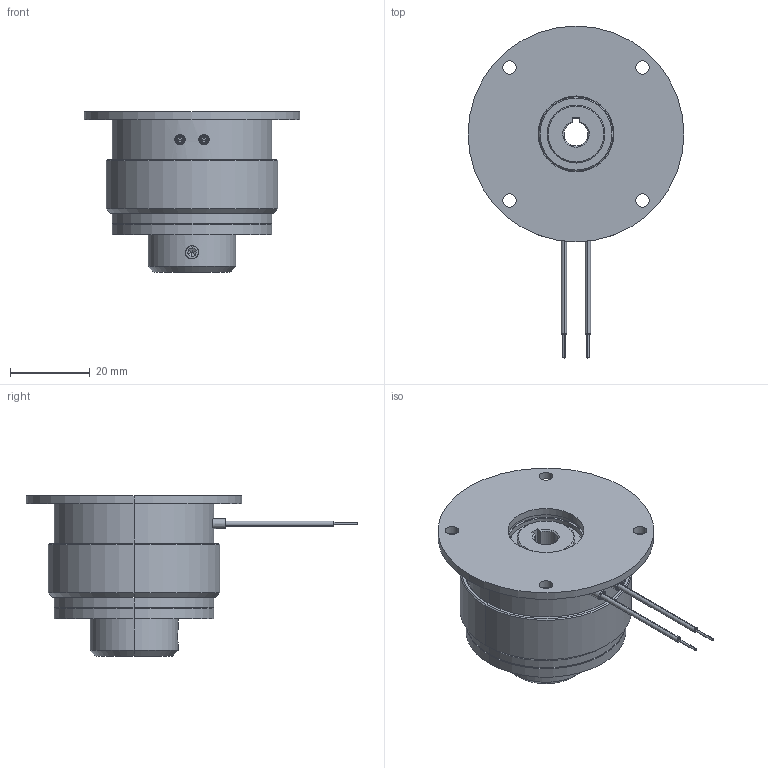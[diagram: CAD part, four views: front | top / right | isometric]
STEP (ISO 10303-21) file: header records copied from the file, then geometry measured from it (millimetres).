
FILE_DESCRIPTION (( 'STEP AP214' ), '1' );
FILE_NAME ('dr_bk_0303-130_mu.STEP', '2021-11-17T08:30:06', ( '' ), ( '' ), 'SwSTEP 2.0', 'SolidWorks 2019', '' );
FILE_SCHEMA (( 'AUTOMOTIVE_DESIGN' ));
Length unit declared in the file: millimetre
Products named in the file (12): 10068742_000; 10069108_000; 10068743_000_genietet 2,03mm Klemml„nge; 10068745_000_eingebaut; 10068753_000; 10068743_000_Einbaul„nge 1,7 mm; dr_bk_0303-130_mu; 10068751_000; 10069160_000_M 4 x 4; 10069127_000; 10068744_000; 10068746_000
Assembly tree (20 placements, depth 4):
  dr_bk_0303-130_mu
    10069108_000
    10069127_000
    10068751_000
      10068753_000
      10068744_000
        10068746_000
        10068742_000
        10068745_000_eingebaut  x3
        10068743_000_Einbaul„nge 1,7 mm  x3
      10068743_000_genietet 2,03mm Klemml„nge  x3
      10068745_000_eingebaut  x3
      10069160_000_M 4 x 4
Bounding box: 54 x 83 x 40.2 mm (x, y, z)
Volume: 42168.1 mm3; surface area: 23853.3 mm2
Topology: 20 solids, 20 shells, 370 faces, 824 edges, 501 vertices
Faces by surface type: cylinder 164, cone 98, plane 64, torus 32, sphere 12
Entity records: 9242 total; most frequent: CARTESIAN_POINT 1486, DIRECTION 1442, ORIENTED_EDGE 1148, AXIS2_PLACEMENT_3D 607, EDGE_CURVE 574, VERTEX_POINT 357, EDGE_LOOP 331, CIRCLE 326
